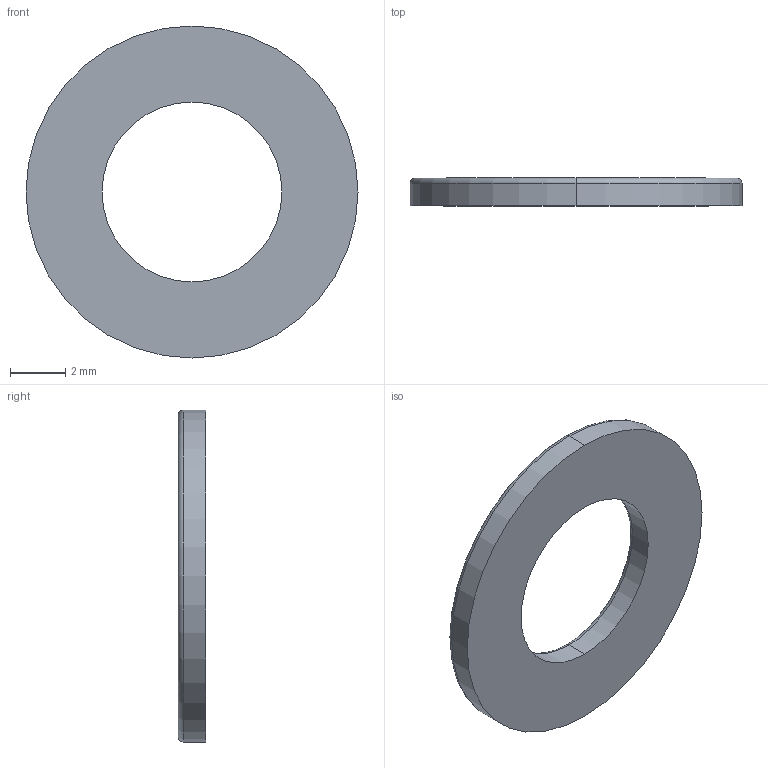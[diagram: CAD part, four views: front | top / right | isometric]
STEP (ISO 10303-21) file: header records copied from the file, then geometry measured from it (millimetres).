
FILE_DESCRIPTION (( 'STEP AP203' ), '1' );
FILE_NAME ('157-CE-FG-6.STEP', '2015-07-09T09:08:56', ( '' ), ( '' ), 'SwSTEP 2.0', 'SolidWorks 2013', '' );
FILE_SCHEMA (( 'CONFIG_CONTROL_DESIGN' ));
Length unit declared in the file: millimetre
Products named in the file (1): 157-CE-FG-6
Bounding box: 12 x 1 x 12 mm (x, y, z)
Volume: 79.4 mm3; surface area: 213 mm2
Topology: 1 solids, 1 shells, 10 faces, 20 edges, 12 vertices
Faces by surface type: torus 4, cylinder 4, plane 2
Entity records: 349 total; most frequent: DIRECTION 58, CARTESIAN_POINT 43, ORIENTED_EDGE 40, AXIS2_PLACEMENT_3D 27, EDGE_CURVE 20, CIRCLE 16, VERTEX_POINT 12, EDGE_LOOP 12
